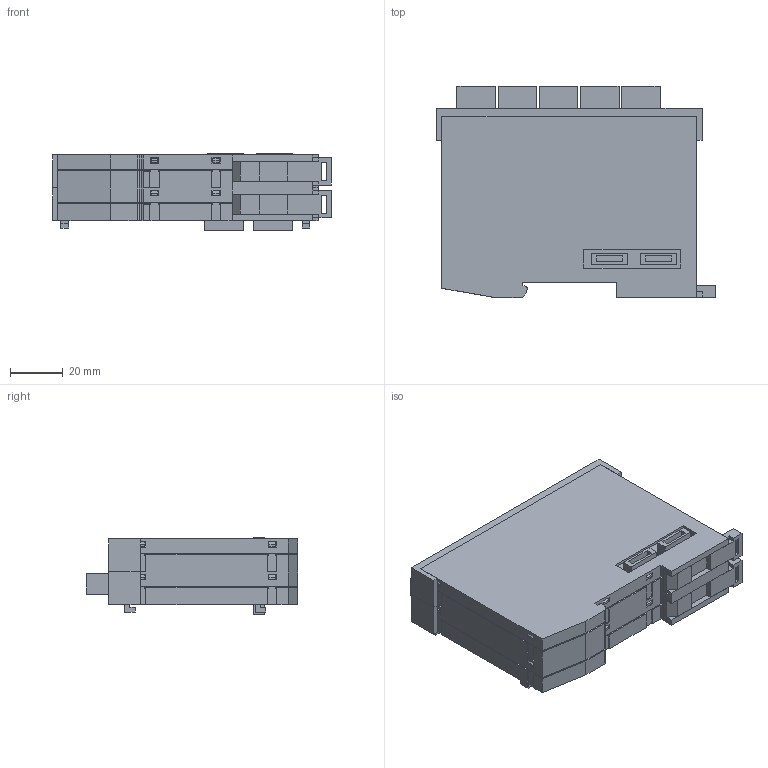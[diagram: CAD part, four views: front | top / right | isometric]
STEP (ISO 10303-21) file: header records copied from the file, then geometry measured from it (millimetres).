
FILE_DESCRIPTION (( 'STEP AP214' ), '1' );
FILE_NAME ('SAI041 (20-897-041) Export20220531.STEP', '2022-05-31T11:22:04', ( 'Windows-Benutzer' ), ( '' ), 'SwSTEP 2.0', 'SolidWorks 2020', '' );
FILE_SCHEMA (( 'AUTOMOTIVE_DESIGN' ));
Length unit declared in the file: millimetre
Products named in the file (1): SAI041 (20-897-041) Export20220531
Bounding box: 105.88 x 80.16 x 29.3 mm (x, y, z)
Volume: 58224.6 mm3; surface area: 82675.3 mm2
Topology: 24 solids, 24 shells, 1035 faces, 2859 edges, 1872 vertices
Faces by surface type: plane 849, cylinder 140, cone 30, torus 16
Entity records: 44421 total; most frequent: CARTESIAN_POINT 5827, ORIENTED_EDGE 5718, DIRECTION 5285, EDGE_CURVE 2859, VECTOR 2465, LINE 2465, VERTEX_POINT 1872, AXIS2_PLACEMENT_3D 1410
